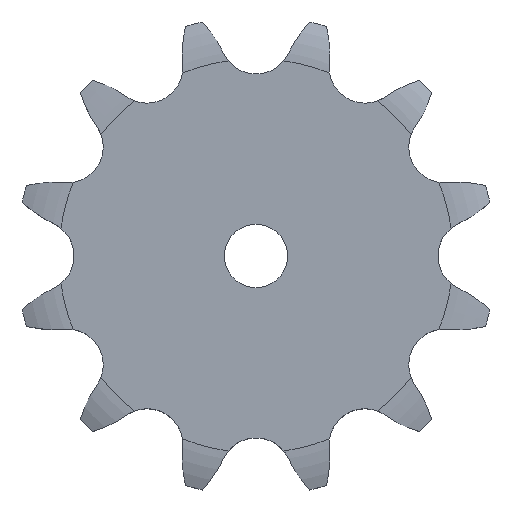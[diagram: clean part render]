
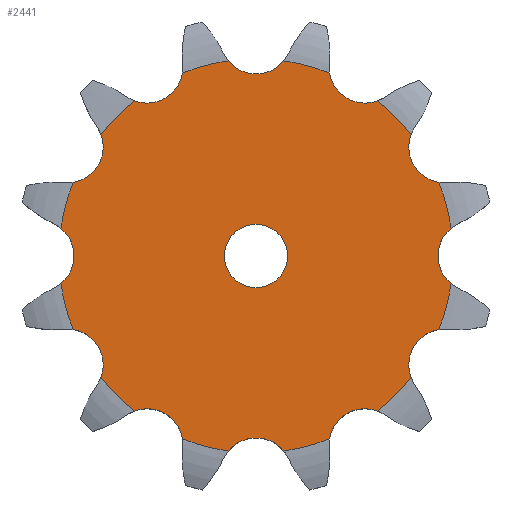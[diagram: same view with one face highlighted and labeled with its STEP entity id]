
A CAD part, top view. The second image highlights one B-rep face of the part: STEP entity #2441.
In plain terms, the highlighted planar face has unit normal (0, 0, 1).
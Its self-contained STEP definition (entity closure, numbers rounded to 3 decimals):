
#33=CARTESIAN_POINT('',(0.,0.,14.7));
#34=DIRECTION('',(0.,0.,-1.));
#35=DIRECTION('',(0.141,0.99,0.));
#36=AXIS2_PLACEMENT_3D('',#33,#34,#35);
#42=CARTESIAN_POINT('',(42.935,74.366,14.7));
#43=DIRECTION('',(0.,0.,1.));
#44=DIRECTION('',(-0.987,-0.161,0.));
#45=AXIS2_PLACEMENT_3D('',#42,#43,#44);
#50=CARTESIAN_POINT('',(0.,0.,14.7));
#51=DIRECTION('',(0.,0.,-1.));
#52=DIRECTION('',(0.617,0.787,0.));
#53=AXIS2_PLACEMENT_3D('',#50,#51,#52);
#58=CARTESIAN_POINT('',(74.366,42.935,14.7));
#59=DIRECTION('',(0.,0.,1.));
#60=DIRECTION('',(-0.935,0.354,0.));
#61=AXIS2_PLACEMENT_3D('',#58,#59,#60);
#66=CARTESIAN_POINT('',(0.,0.,14.7));
#67=DIRECTION('',(0.,0.,-1.));
#68=DIRECTION('',(0.928,0.373,0.));
#69=AXIS2_PLACEMENT_3D('',#66,#67,#68);
#74=CARTESIAN_POINT('',(85.871,0.,14.7));
#75=DIRECTION('',(0.,0.,1.));
#76=DIRECTION('',(-0.633,0.774,0.));
#77=AXIS2_PLACEMENT_3D('',#74,#75,#76);
#82=CARTESIAN_POINT('',(0.,0.,14.7));
#83=DIRECTION('',(0.,0.,-1.));
#84=DIRECTION('',(0.99,-0.141,0.));
#85=AXIS2_PLACEMENT_3D('',#82,#83,#84);
#90=CARTESIAN_POINT('',(74.366,-42.935,14.7));
#91=DIRECTION('',(0.,0.,1.));
#92=DIRECTION('',(-0.161,0.987,0.));
#93=AXIS2_PLACEMENT_3D('',#90,#91,#92);
#98=CARTESIAN_POINT('',(0.,0.,14.7));
#99=DIRECTION('',(0.,0.,-1.));
#100=DIRECTION('',(0.787,-0.617,0.));
#101=AXIS2_PLACEMENT_3D('',#98,#99,#100);
#106=CARTESIAN_POINT('',(42.935,-74.366,14.7));
#107=DIRECTION('',(0.,0.,1.));
#108=DIRECTION('',(0.354,0.935,0.));
#109=AXIS2_PLACEMENT_3D('',#106,#107,#108);
#114=CARTESIAN_POINT('',(0.,0.,14.7));
#115=DIRECTION('',(0.,0.,-1.));
#116=DIRECTION('',(0.373,-0.928,0.));
#117=AXIS2_PLACEMENT_3D('',#114,#115,#116);
#122=CARTESIAN_POINT('',(0.,-85.871,14.7));
#123=DIRECTION('',(0.,0.,1.));
#124=DIRECTION('',(0.774,0.633,0.));
#125=AXIS2_PLACEMENT_3D('',#122,#123,#124);
#130=CARTESIAN_POINT('',(0.,0.,14.7));
#131=DIRECTION('',(0.,0.,-1.));
#132=DIRECTION('',(-0.141,-0.99,0.));
#133=AXIS2_PLACEMENT_3D('',#130,#131,#132);
#138=CARTESIAN_POINT('',(-42.935,-74.366,14.7));
#139=DIRECTION('',(0.,0.,1.));
#140=DIRECTION('',(0.987,0.161,0.));
#141=AXIS2_PLACEMENT_3D('',#138,#139,#140);
#146=CARTESIAN_POINT('',(0.,0.,14.7));
#147=DIRECTION('',(0.,0.,-1.));
#148=DIRECTION('',(-0.617,-0.787,0.));
#149=AXIS2_PLACEMENT_3D('',#146,#147,#148);
#154=CARTESIAN_POINT('',(-74.366,-42.935,14.7));
#155=DIRECTION('',(0.,0.,1.));
#156=DIRECTION('',(0.935,-0.354,0.));
#157=AXIS2_PLACEMENT_3D('',#154,#155,#156);
#162=CARTESIAN_POINT('',(0.,0.,14.7));
#163=DIRECTION('',(0.,0.,-1.));
#164=DIRECTION('',(-0.928,-0.373,0.));
#165=AXIS2_PLACEMENT_3D('',#162,#163,#164);
#170=CARTESIAN_POINT('',(-85.871,0.,14.7));
#171=DIRECTION('',(0.,0.,1.));
#172=DIRECTION('',(0.633,-0.774,0.));
#173=AXIS2_PLACEMENT_3D('',#170,#171,#172);
#178=CARTESIAN_POINT('',(0.,0.,14.7));
#179=DIRECTION('',(0.,0.,-1.));
#180=DIRECTION('',(-0.99,0.141,0.));
#181=AXIS2_PLACEMENT_3D('',#178,#179,#180);
#186=CARTESIAN_POINT('',(-74.366,42.935,14.7));
#187=DIRECTION('',(0.,0.,1.));
#188=DIRECTION('',(0.161,-0.987,0.));
#189=AXIS2_PLACEMENT_3D('',#186,#187,#188);
#194=CARTESIAN_POINT('',(0.,0.,14.7));
#195=DIRECTION('',(0.,0.,-1.));
#196=DIRECTION('',(-0.787,0.617,0.));
#197=AXIS2_PLACEMENT_3D('',#194,#195,#196);
#202=CARTESIAN_POINT('',(-42.935,74.366,14.7));
#203=DIRECTION('',(0.,0.,1.));
#204=DIRECTION('',(-0.354,-0.935,0.));
#205=AXIS2_PLACEMENT_3D('',#202,#203,#204);
#210=CARTESIAN_POINT('',(0.,0.,14.7));
#211=DIRECTION('',(0.,0.,-1.));
#212=DIRECTION('',(-0.373,0.928,0.));
#213=AXIS2_PLACEMENT_3D('',#210,#211,#212);
#218=CARTESIAN_POINT('',(0.,85.871,14.7));
#219=DIRECTION('',(0.,0.,1.));
#220=DIRECTION('',(-0.774,-0.633,0.));
#221=AXIS2_PLACEMENT_3D('',#218,#219,#220);
#226=CARTESIAN_POINT('',(0.,0.,14.7));
#227=DIRECTION('',(0.,0.,1.));
#228=DIRECTION('',(1.,0.,0.));
#229=AXIS2_PLACEMENT_3D('',#226,#227,#228);
#234=CARTESIAN_POINT('',(0.,0.,14.7));
#235=DIRECTION('',(0.,0.,1.));
#236=DIRECTION('',(-1.,0.,0.));
#237=AXIS2_PLACEMENT_3D('',#234,#235,#236);
#2120=CARTESIAN_POINT('',(10.925,76.942,14.7));
#2121=CARTESIAN_POINT('',(29.009,72.096,14.7));
#2122=VERTEX_POINT('',#2120);
#2123=VERTEX_POINT('',#2121);
#2124=CARTESIAN_POINT('',(47.933,61.171,14.7));
#2125=CARTESIAN_POINT('',(61.171,47.933,14.7));
#2126=VERTEX_POINT('',#2124);
#2127=VERTEX_POINT('',#2125);
#2128=CARTESIAN_POINT('',(72.096,29.009,14.7));
#2129=CARTESIAN_POINT('',(76.942,10.925,14.7));
#2130=VERTEX_POINT('',#2128);
#2131=VERTEX_POINT('',#2129);
#2132=CARTESIAN_POINT('',(76.942,-10.925,14.7));
#2133=CARTESIAN_POINT('',(72.096,-29.009,14.7));
#2134=VERTEX_POINT('',#2132);
#2135=VERTEX_POINT('',#2133);
#2136=CARTESIAN_POINT('',(-10.925,-76.942,14.7));
#2137=CARTESIAN_POINT('',(-29.009,-72.096,14.7));
#2138=VERTEX_POINT('',#2136);
#2139=VERTEX_POINT('',#2137);
#2140=CARTESIAN_POINT('',(-47.933,-61.171,14.7));
#2141=CARTESIAN_POINT('',(-61.171,-47.933,14.7));
#2142=VERTEX_POINT('',#2140);
#2143=VERTEX_POINT('',#2141);
#2144=CARTESIAN_POINT('',(-72.096,-29.009,14.7));
#2145=CARTESIAN_POINT('',(-76.942,-10.925,14.7));
#2146=VERTEX_POINT('',#2144);
#2147=VERTEX_POINT('',#2145);
#2148=CARTESIAN_POINT('',(-76.942,10.925,14.7));
#2149=CARTESIAN_POINT('',(-72.096,29.009,14.7));
#2150=VERTEX_POINT('',#2148);
#2151=VERTEX_POINT('',#2149);
#2206=CARTESIAN_POINT('',(61.171,-47.933,14.7));
#2207=VERTEX_POINT('',#2206);
#2210=CARTESIAN_POINT('',(47.933,-61.171,14.7));
#2211=CARTESIAN_POINT('',(29.009,-72.096,14.7));
#2212=VERTEX_POINT('',#2210);
#2213=VERTEX_POINT('',#2211);
#2218=CARTESIAN_POINT('',(10.925,-76.942,14.7));
#2219=VERTEX_POINT('',#2218);
#2242=CARTESIAN_POINT('',(-61.171,47.933,14.7));
#2243=CARTESIAN_POINT('',(-47.933,61.171,14.7));
#2244=VERTEX_POINT('',#2242);
#2245=VERTEX_POINT('',#2243);
#2246=CARTESIAN_POINT('',(-29.009,72.096,14.7));
#2247=CARTESIAN_POINT('',(-10.925,76.942,14.7));
#2248=VERTEX_POINT('',#2246);
#2249=VERTEX_POINT('',#2247);
#2258=CARTESIAN_POINT('',(12.5,0.,14.7));
#2259=CARTESIAN_POINT('',(-12.5,0.,14.7));
#2260=VERTEX_POINT('',#2258);
#2261=VERTEX_POINT('',#2259);
#2380=CARTESIAN_POINT('',(0.,0.,14.7));
#2381=DIRECTION('',(0.,0.,1.));
#2382=DIRECTION('',(1.,0.,0.));
#2383=AXIS2_PLACEMENT_3D('',#2380,#2381,#2382);
#2384=PLANE('',#2383);
#2386=ORIENTED_EDGE('',*,*,#2385,.T.);
#2388=ORIENTED_EDGE('',*,*,#2387,.T.);
#2390=ORIENTED_EDGE('',*,*,#2389,.T.);
#2392=ORIENTED_EDGE('',*,*,#2391,.T.);
#2394=ORIENTED_EDGE('',*,*,#2393,.T.);
#2396=ORIENTED_EDGE('',*,*,#2395,.T.);
#2398=ORIENTED_EDGE('',*,*,#2397,.T.);
#2400=ORIENTED_EDGE('',*,*,#2399,.T.);
#2402=ORIENTED_EDGE('',*,*,#2401,.T.);
#2404=ORIENTED_EDGE('',*,*,#2403,.T.);
#2406=ORIENTED_EDGE('',*,*,#2405,.T.);
#2408=ORIENTED_EDGE('',*,*,#2407,.T.);
#2410=ORIENTED_EDGE('',*,*,#2409,.T.);
#2412=ORIENTED_EDGE('',*,*,#2411,.T.);
#2414=ORIENTED_EDGE('',*,*,#2413,.T.);
#2416=ORIENTED_EDGE('',*,*,#2415,.T.);
#2418=ORIENTED_EDGE('',*,*,#2417,.T.);
#2420=ORIENTED_EDGE('',*,*,#2419,.T.);
#2422=ORIENTED_EDGE('',*,*,#2421,.T.);
#2424=ORIENTED_EDGE('',*,*,#2423,.T.);
#2426=ORIENTED_EDGE('',*,*,#2425,.T.);
#2428=ORIENTED_EDGE('',*,*,#2427,.T.);
#2430=ORIENTED_EDGE('',*,*,#2429,.T.);
#2432=ORIENTED_EDGE('',*,*,#2431,.T.);
#2433=EDGE_LOOP('',(#2386,#2388,#2390,#2392,#2394,#2396,#2398,#2400,#2402,#2404,
#2406,#2408,#2410,#2412,#2414,#2416,#2418,#2420,#2422,#2424,#2426,#2428,#2430,
#2432));
#2434=FACE_OUTER_BOUND('',#2433,.F.);
#2436=ORIENTED_EDGE('',*,*,#2435,.T.);
#2438=ORIENTED_EDGE('',*,*,#2437,.T.);
#2439=EDGE_LOOP('',(#2436,#2438));
#2440=FACE_BOUND('',#2439,.F.);
#2441=ADVANCED_FACE('',(#2434,#2440),#2384,.T.);
#37=CIRCLE('',#36,77.714);
#46=CIRCLE('',#45,14.11);
#54=CIRCLE('',#53,77.714);
#62=CIRCLE('',#61,14.11);
#70=CIRCLE('',#69,77.714);
#78=CIRCLE('',#77,14.11);
#86=CIRCLE('',#85,77.714);
#94=CIRCLE('',#93,14.11);
#102=CIRCLE('',#101,77.714);
#110=CIRCLE('',#109,14.11);
#118=CIRCLE('',#117,77.714);
#126=CIRCLE('',#125,14.11);
#134=CIRCLE('',#133,77.714);
#142=CIRCLE('',#141,14.11);
#150=CIRCLE('',#149,77.714);
#158=CIRCLE('',#157,14.11);
#166=CIRCLE('',#165,77.714);
#174=CIRCLE('',#173,14.11);
#182=CIRCLE('',#181,77.714);
#190=CIRCLE('',#189,14.11);
#198=CIRCLE('',#197,77.714);
#206=CIRCLE('',#205,14.11);
#214=CIRCLE('',#213,77.714);
#222=CIRCLE('',#221,14.11);
#230=CIRCLE('',#229,12.5);
#238=CIRCLE('',#237,12.5);
#2385=EDGE_CURVE('',#2122,#2123,#37,.T.);
#2387=EDGE_CURVE('',#2123,#2126,#46,.T.);
#2389=EDGE_CURVE('',#2126,#2127,#54,.T.);
#2391=EDGE_CURVE('',#2127,#2130,#62,.T.);
#2393=EDGE_CURVE('',#2130,#2131,#70,.T.);
#2395=EDGE_CURVE('',#2131,#2134,#78,.T.);
#2397=EDGE_CURVE('',#2134,#2135,#86,.T.);
#2399=EDGE_CURVE('',#2135,#2207,#94,.T.);
#2401=EDGE_CURVE('',#2207,#2212,#102,.T.);
#2403=EDGE_CURVE('',#2212,#2213,#110,.T.);
#2405=EDGE_CURVE('',#2213,#2219,#118,.T.);
#2407=EDGE_CURVE('',#2219,#2138,#126,.T.);
#2409=EDGE_CURVE('',#2138,#2139,#134,.T.);
#2411=EDGE_CURVE('',#2139,#2142,#142,.T.);
#2413=EDGE_CURVE('',#2142,#2143,#150,.T.);
#2415=EDGE_CURVE('',#2143,#2146,#158,.T.);
#2417=EDGE_CURVE('',#2146,#2147,#166,.T.);
#2419=EDGE_CURVE('',#2147,#2150,#174,.T.);
#2421=EDGE_CURVE('',#2150,#2151,#182,.T.);
#2423=EDGE_CURVE('',#2151,#2244,#190,.T.);
#2425=EDGE_CURVE('',#2244,#2245,#198,.T.);
#2427=EDGE_CURVE('',#2245,#2248,#206,.T.);
#2429=EDGE_CURVE('',#2248,#2249,#214,.T.);
#2431=EDGE_CURVE('',#2249,#2122,#222,.T.);
#2435=EDGE_CURVE('',#2260,#2261,#230,.T.);
#2437=EDGE_CURVE('',#2261,#2260,#238,.T.);
